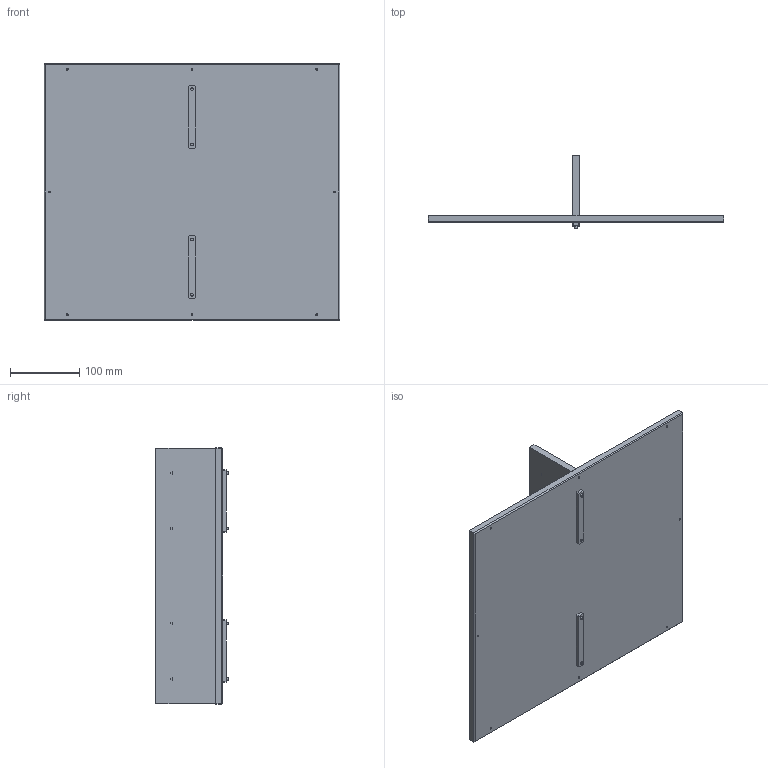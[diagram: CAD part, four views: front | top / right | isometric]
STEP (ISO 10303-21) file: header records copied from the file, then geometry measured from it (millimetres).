
FILE_DESCRIPTION (( 'STEP AP214' ), '1' );
FILE_NAME ('Asyril_FLAT VIBRATING PLATE 530 SEP - H100_000.104.972_(option).STEP', '2021-10-18T06:19:14', ( '' ), ( '' ), 'SwSTEP 2.0', 'SolidWorks 2017', '' );
FILE_SCHEMA (( 'AUTOMOTIVE_DESIGN' ));
Length unit declared in the file: millimetre
Products named in the file (1): Asyril_FLAT VIBRATING PLATE 530 SEP - H100_000.104.972_(option)
Bounding box: 426.8 x 104.5 x 369.8 mm (x, y, z)
Volume: 1900674.5 mm3; surface area: 401199 mm2
Topology: 1 solids, 1 shells, 105 faces, 232 edges, 152 vertices
Faces by surface type: plane 57, cylinder 40, torus 8
Entity records: 3777 total; most frequent: DIRECTION 540, CARTESIAN_POINT 490, ORIENTED_EDGE 464, EDGE_CURVE 232, AXIS2_PLACEMENT_3D 202, VERTEX_POINT 152, LINE 136, VECTOR 136
